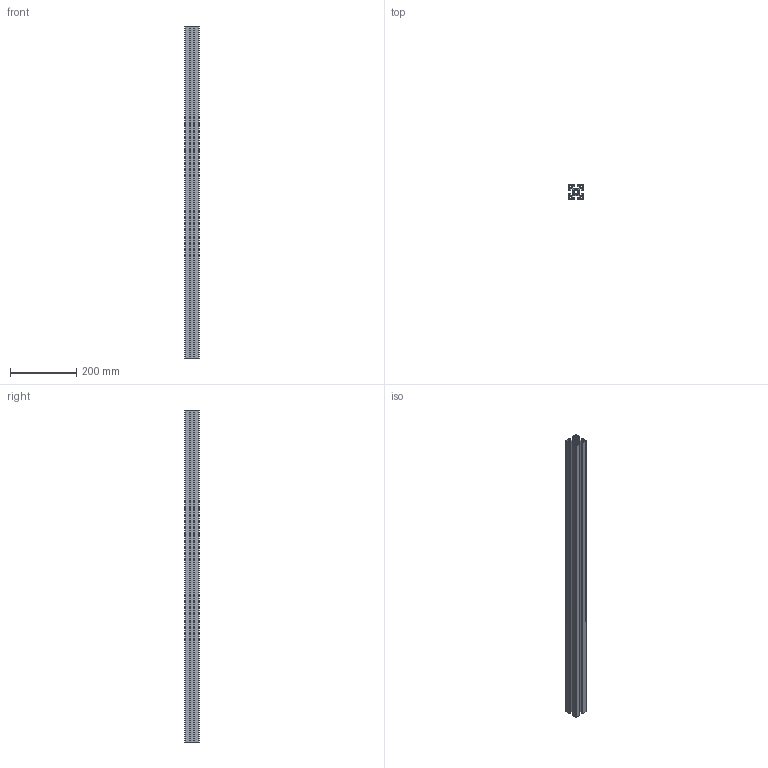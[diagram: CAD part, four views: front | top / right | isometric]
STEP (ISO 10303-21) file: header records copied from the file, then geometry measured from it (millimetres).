
FILE_DESCRIPTION(/* description */ (''),/* implementation_level */ '2;1');
FILE_NAME(/* name */ 'WHEELS-INSERT.21.stp',/* time_stamp */ '2018-05-25T14:25:52+02:00',/* author */ (''),/* organization */ (''),/* preprocessor_version */ 'ST-DEVELOPER v16.7',/* originating_system */ 'SIEMENS PLM Software NX 12.0',/* authorisation */ '');
FILE_SCHEMA (('AP203_CONFIGURATION_CONTROLLED_3D_DESIGN_OF_MECHANICAL_PARTS_AND_ASSEMBLIES_MIM_LF { 1 0 10303 403 2 1 2}'));
Length unit declared in the file: millimetre
Products named in the file (1): turc66A81BAD9zgq
Bounding box: 45 x 45 x 1000 mm (x, y, z)
Volume: 759899.6 mm3; surface area: 623314.1 mm2
Topology: 1 solids, 1 shells, 178 faces, 528 edges, 352 vertices
Faces by surface type: plane 106, cylinder 64, cone 8
Entity records: 6090 total; most frequent: CARTESIAN_POINT 1059, ORIENTED_EDGE 1056, DIRECTION 1022, EDGE_CURVE 528, LINE 392, VECTOR 392, VERTEX_POINT 352, AXIS2_PLACEMENT_3D 315
